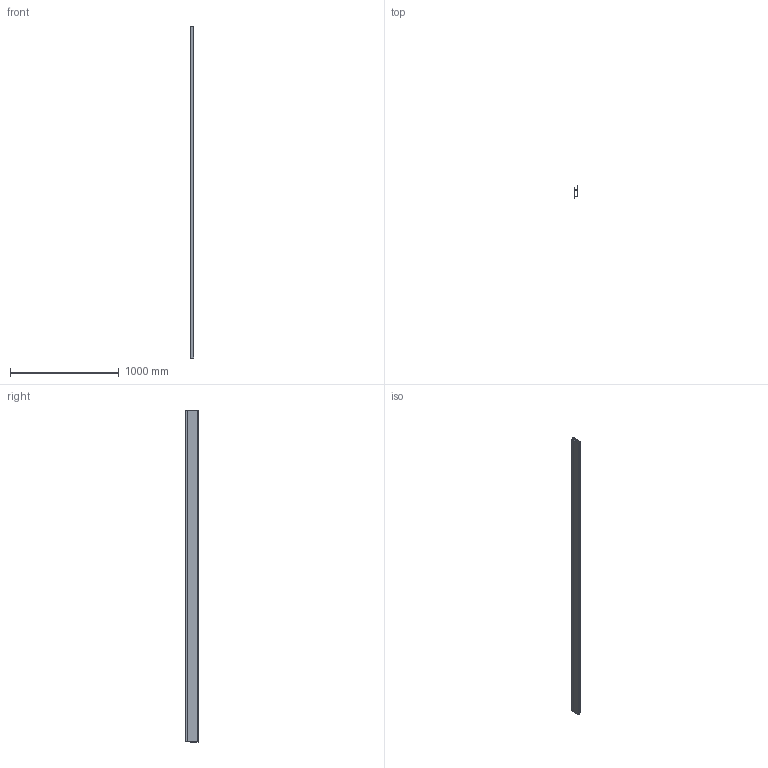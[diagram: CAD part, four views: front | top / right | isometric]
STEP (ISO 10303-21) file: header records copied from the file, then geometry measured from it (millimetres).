
FILE_DESCRIPTION(/* description */ (''),/* implementation_level */ '2;1');
FILE_NAME(/* name */ 'M12I.stp',/* time_stamp */ '2025-05-14T09:16:53-04:00',/* author */ ('gabrielle.gilbert'),/* organization */ (''),/* preprocessor_version */ 'ST-DEVELOPER v20',/* originating_system */ 'Autodesk Inventor 2025',/* authorisation */ '');
FILE_SCHEMA (('AUTOMOTIVE_DESIGN { 1 0 10303 214 3 1 1 }'));
Length unit declared in the file: inch
Products named in the file (3): M12I; M12I (1-2); M12I (2-2)
Assembly tree (2 placements, depth 2):
  M12I
    M12I (1-2)
    M12I (2-2)
Bounding box: 36.6 x 113.62 x 3048 mm (x, y, z)
Volume: 426731.3 mm3; surface area: 1882967.8 mm2
Topology: 2 solids, 2 shells, 36 faces, 96 edges, 64 vertices
Faces by surface type: plane 24, cylinder 12
Entity records: 1233 total; most frequent: DIRECTION 202, CARTESIAN_POINT 201, ORIENTED_EDGE 192, EDGE_CURVE 96, LINE 72, VECTOR 72, AXIS2_PLACEMENT_3D 65, VERTEX_POINT 64
